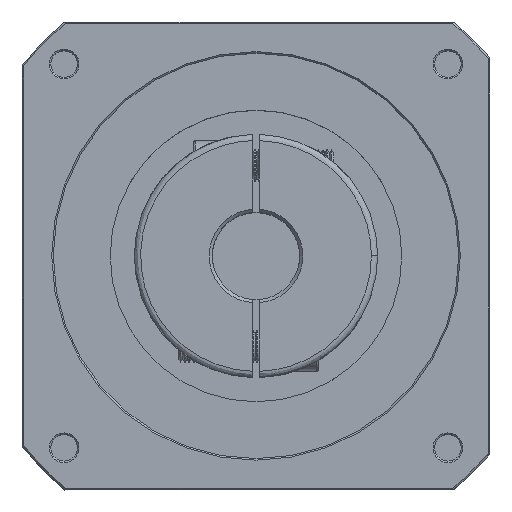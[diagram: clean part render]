
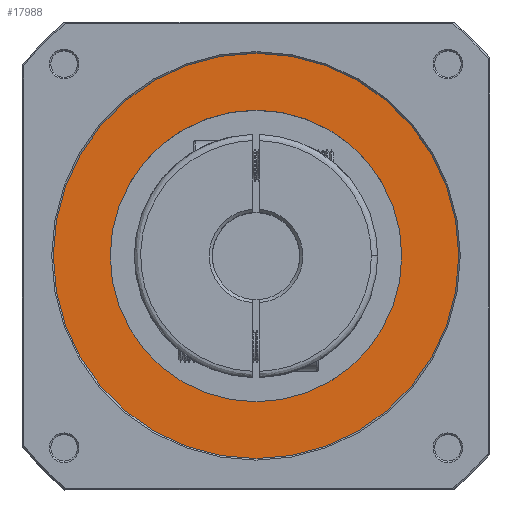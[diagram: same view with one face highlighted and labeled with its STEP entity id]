
A CAD part, top view. The second image highlights one B-rep face of the part: STEP entity #17988.
In plain terms, the highlighted planar face has unit normal (0, 0, -1).
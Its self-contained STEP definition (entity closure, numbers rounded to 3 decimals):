
#1300 = DIRECTION ( 'NONE',  ( 0., 0., 1. ) ) ;
#1796 = EDGE_CURVE ( 'NONE', #72388, #28042, #56421, .T. ) ;
#5725 = CARTESIAN_POINT ( 'NONE',  ( 65., 0., 157.5 ) ) ;
#5985 = DIRECTION ( 'NONE',  ( 0., 0., -1. ) ) ;
#6539 = ORIENTED_EDGE ( 'NONE', *, *, #44029, .T. ) ;
#7307 = DIRECTION ( 'NONE',  ( 0., 0., -1. ) ) ;
#7697 = VERTEX_POINT ( 'NONE', #102609 ) ;
#17988 = ADVANCED_FACE ( 'NONE', ( #53167, #74157 ), #61791, .F. ) ;
#22547 = AXIS2_PLACEMENT_3D ( 'NONE', #80437, #33081, #88359 ) ;
#28042 = VERTEX_POINT ( 'NONE', #5725 ) ;
#29137 = ORIENTED_EDGE ( 'NONE', *, *, #55171, .T. ) ;
#30127 = DIRECTION ( 'NONE',  ( 0., 0., 1. ) ) ;
#33081 = DIRECTION ( 'NONE',  ( 0., 0., 1. ) ) ;
#37716 = EDGE_LOOP ( 'NONE', ( #6539, #90804 ) ) ;
#39044 = VERTEX_POINT ( 'NONE', #45354 ) ;
#40143 = AXIS2_PLACEMENT_3D ( 'NONE', #53416, #5985, #61364 ) ;
#44029 = EDGE_CURVE ( 'NONE', #28042, #72388, #94033, .T. ) ;
#44241 = ORIENTED_EDGE ( 'NONE', *, *, #63820, .T. ) ;
#45354 = CARTESIAN_POINT ( 'NONE',  ( -46.75, 0., 157.5 ) ) ;
#48053 = CIRCLE ( 'NONE', #98414, 46.75 ) ;
#48808 = CARTESIAN_POINT ( 'NONE',  ( 0., 0., 157.5 ) ) ;
#53167 = FACE_BOUND ( 'NONE', #73847, .T. ) ;
#53416 = CARTESIAN_POINT ( 'NONE',  ( 0., 0., 157.5 ) ) ;
#54724 = CARTESIAN_POINT ( 'NONE',  ( 0., 0., 157.5 ) ) ;
#55171 = EDGE_CURVE ( 'NONE', #7697, #39044, #48053, .T. ) ;
#56421 = CIRCLE ( 'NONE', #95227, 65. ) ;
#56702 = DIRECTION ( 'NONE',  ( -1., 0., 0. ) ) ;
#61364 = DIRECTION ( 'NONE',  ( 1., 0., 0. ) ) ;
#61791 = PLANE ( 'NONE',  #22547 ) ;
#62665 = DIRECTION ( 'NONE',  ( 1., 0., 0. ) ) ;
#63586 = CARTESIAN_POINT ( 'NONE',  ( -65., 0., 157.5 ) ) ;
#63820 = EDGE_CURVE ( 'NONE', #39044, #7697, #101341, .T. ) ;
#72388 = VERTEX_POINT ( 'NONE', #63586 ) ;
#73847 = EDGE_LOOP ( 'NONE', ( #44241, #29137 ) ) ;
#74157 = FACE_OUTER_BOUND ( 'NONE', #37716, .T. ) ;
#74480 = AXIS2_PLACEMENT_3D ( 'NONE', #77460, #30127, #85382 ) ;
#77460 = CARTESIAN_POINT ( 'NONE',  ( 0., 0., 157.5 ) ) ;
#80437 = CARTESIAN_POINT ( 'NONE',  ( -65.78, -65.78, 157.5 ) ) ;
#85382 = DIRECTION ( 'NONE',  ( -1., 0., 0. ) ) ;
#88359 = DIRECTION ( 'NONE',  ( 1., 0., 0. ) ) ;
#90804 = ORIENTED_EDGE ( 'NONE', *, *, #1796, .T. ) ;
#94033 = CIRCLE ( 'NONE', #40143, 65. ) ;
#95227 = AXIS2_PLACEMENT_3D ( 'NONE', #54724, #7307, #62665 ) ;
#98414 = AXIS2_PLACEMENT_3D ( 'NONE', #48808, #1300, #56702 ) ;
#101341 = CIRCLE ( 'NONE', #74480, 46.75 ) ;
#102609 = CARTESIAN_POINT ( 'NONE',  ( 46.75, 0., 157.5 ) ) ;
